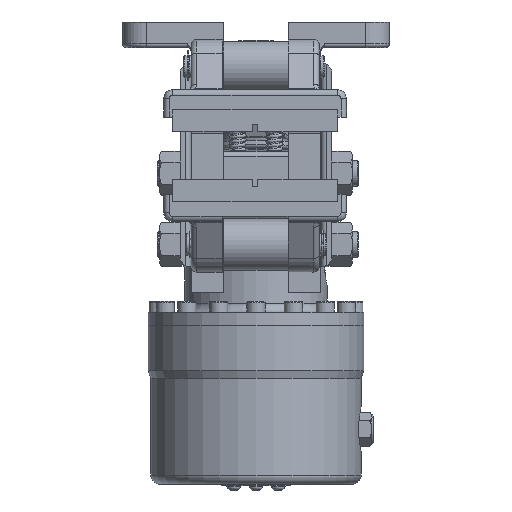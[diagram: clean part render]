
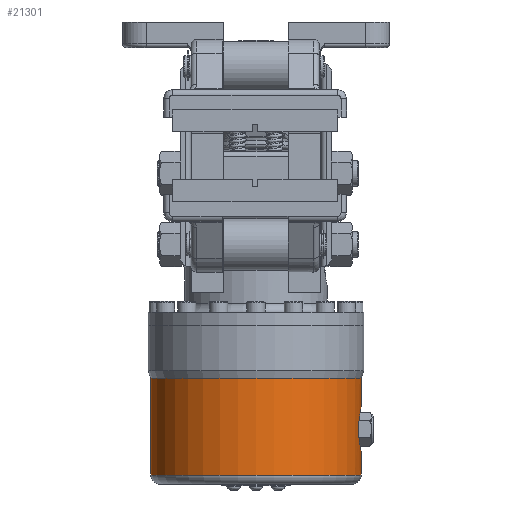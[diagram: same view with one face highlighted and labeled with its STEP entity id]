
A CAD part, front view. The second image highlights one B-rep face of the part: STEP entity #21301.
In plain terms, the highlighted cylindrical face has radius 57.5 mm (diameter 115 mm), a full revolution.
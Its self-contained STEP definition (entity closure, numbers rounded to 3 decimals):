
#570=FACE_BOUND('',#6298,.T.);
#2317=LINE('',#41375,#3629);
#3629=VECTOR('',#28796,57.5);
#4078=CYLINDRICAL_SURFACE('',#23432,57.5);
#5052=FACE_OUTER_BOUND('',#6297,.T.);
#6297=EDGE_LOOP('',(#18049,#18050,#18051,#18052,#18053,#18054,#18055));
#6298=EDGE_LOOP('',(#18056,#18057));
#6724=B_SPLINE_CURVE_WITH_KNOTS('',3,(#41379,#41380,#41381,#41382,#41383,
#41384,#41385,#41386,#41387,#41388,#41389,#41390,#41391,#41392,#41393,#41394,
#41395,#41396),.UNSPECIFIED.,.F.,.F.,(4,2,2,2,2,2,2,2,4),(1.89,
2.362,2.835,3.307,3.78,4.252,
4.725,5.197,5.67),.UNSPECIFIED.);
#6725=B_SPLINE_CURVE_WITH_KNOTS('',3,(#41397,#41398,#41399,#41400,#41401,
#41402,#41403,#41404,#41405,#41406,#41407,#41408,#41409,#41410,#41411,#41412,
#41413,#41414,#41415),.UNSPECIFIED.,.F.,.F.,(4,2,2,2,3,2,2,2,4),(5.67,
6.142,6.615,7.087,7.56,8.032,
8.505,8.977,9.45),.UNSPECIFIED.);
#7689=CIRCLE('',#23343,57.5);
#7690=CIRCLE('',#23344,57.5);
#7757=CIRCLE('',#23433,57.5);
#7758=CIRCLE('',#23434,57.5);
#7759=CIRCLE('',#23435,57.5);
#9575=VERTEX_POINT('',#41162);
#9576=VERTEX_POINT('',#41163);
#9645=VERTEX_POINT('',#41370);
#9646=VERTEX_POINT('',#41371);
#9647=VERTEX_POINT('',#41373);
#9648=VERTEX_POINT('',#41377);
#9649=VERTEX_POINT('',#41378);
#12448=EDGE_CURVE('',#9575,#9576,#7689,.T.);
#12449=EDGE_CURVE('',#9576,#9575,#7690,.T.);
#12530=EDGE_CURVE('',#9645,#9646,#7757,.T.);
#12531=EDGE_CURVE('',#9647,#9645,#7758,.T.);
#12532=EDGE_CURVE('',#9647,#9576,#2317,.T.);
#12533=EDGE_CURVE('',#9646,#9647,#7759,.T.);
#12534=EDGE_CURVE('',#9648,#9649,#6724,.T.);
#12535=EDGE_CURVE('',#9649,#9648,#6725,.T.);
#18049=ORIENTED_EDGE('',*,*,#12530,.F.);
#18050=ORIENTED_EDGE('',*,*,#12531,.F.);
#18051=ORIENTED_EDGE('',*,*,#12532,.T.);
#18052=ORIENTED_EDGE('',*,*,#12449,.T.);
#18053=ORIENTED_EDGE('',*,*,#12448,.T.);
#18054=ORIENTED_EDGE('',*,*,#12532,.F.);
#18055=ORIENTED_EDGE('',*,*,#12533,.F.);
#18056=ORIENTED_EDGE('',*,*,#12534,.T.);
#18057=ORIENTED_EDGE('',*,*,#12535,.T.);
#21301=ADVANCED_FACE('',(#5052,#570),#4078,.T.);
#23343=AXIS2_PLACEMENT_3D('',#41164,#28600,#28601);
#23344=AXIS2_PLACEMENT_3D('',#41165,#28602,#28603);
#23432=AXIS2_PLACEMENT_3D('',#41369,#28790,#28791);
#23433=AXIS2_PLACEMENT_3D('',#41372,#28792,#28793);
#23434=AXIS2_PLACEMENT_3D('',#41374,#28794,#28795);
#23435=AXIS2_PLACEMENT_3D('',#41376,#28797,#28798);
#28600=DIRECTION('center_axis',(0.,0.,
-1.));
#28601=DIRECTION('ref_axis',(1.,0.,0.));
#28602=DIRECTION('center_axis',(0.,0.,
-1.));
#28603=DIRECTION('ref_axis',(1.,0.,0.));
#28790=DIRECTION('center_axis',(0.,0.,
-1.));
#28791=DIRECTION('ref_axis',(1.,0.,0.));
#28792=DIRECTION('center_axis',(0.,0.,
-1.));
#28793=DIRECTION('ref_axis',(-1.,0.,0.));
#28794=DIRECTION('center_axis',(0.,0.,
-1.));
#28795=DIRECTION('ref_axis',(-1.,0.,0.));
#28796=DIRECTION('',(0.,0.,1.));
#28797=DIRECTION('center_axis',(0.,0.,
-1.));
#28798=DIRECTION('ref_axis',(-1.,0.,0.));
#41162=CARTESIAN_POINT('',(104.5,140.,-119.971));
#41163=CARTESIAN_POINT('',(-10.5,140.,-119.971));
#41164=CARTESIAN_POINT('Origin',(47.,140.,-119.971));
#41165=CARTESIAN_POINT('Origin',(47.,140.,-119.971));
#41369=CARTESIAN_POINT('Origin',(47.,140.,-148.911));
#41370=CARTESIAN_POINT('',(104.5,140.,-172.85));
#41371=CARTESIAN_POINT('',(47.,82.5,-172.85));
#41372=CARTESIAN_POINT('Origin',(47.,140.,-172.85));
#41373=CARTESIAN_POINT('',(-10.5,140.,-172.85));
#41374=CARTESIAN_POINT('Origin',(47.,140.,-172.85));
#41375=CARTESIAN_POINT('',(-10.5,140.,-148.911));
#41376=CARTESIAN_POINT('Origin',(47.,140.,-172.85));
#41377=CARTESIAN_POINT('',(104.5,140.,-135.35));
#41378=CARTESIAN_POINT('',(104.5,140.,-160.35));
#41379=CARTESIAN_POINT('Ctrl Pts',(104.5,140.,-135.35));
#41380=CARTESIAN_POINT('Ctrl Pts',(104.5,141.575,-135.35));
#41381=CARTESIAN_POINT('Ctrl Pts',(104.429,143.251,-135.666));
#41382=CARTESIAN_POINT('Ctrl Pts',(104.171,146.33,-136.943));
#41383=CARTESIAN_POINT('Ctrl Pts',(103.989,147.732,-137.904));
#41384=CARTESIAN_POINT('Ctrl Pts',(103.644,149.946,-140.118));
#41385=CARTESIAN_POINT('Ctrl Pts',(103.46,150.907,-141.52));
#41386=CARTESIAN_POINT('Ctrl Pts',(103.198,152.184,-144.599));
#41387=CARTESIAN_POINT('Ctrl Pts',(103.125,152.5,-146.275));
#41388=CARTESIAN_POINT('Ctrl Pts',(103.125,152.5,-149.425));
#41389=CARTESIAN_POINT('Ctrl Pts',(103.198,152.184,-151.101));
#41390=CARTESIAN_POINT('Ctrl Pts',(103.46,150.907,-154.18));
#41391=CARTESIAN_POINT('Ctrl Pts',(103.644,149.946,-155.582));
#41392=CARTESIAN_POINT('Ctrl Pts',(103.989,147.732,-157.796));
#41393=CARTESIAN_POINT('Ctrl Pts',(104.171,146.33,-158.757));
#41394=CARTESIAN_POINT('Ctrl Pts',(104.429,143.251,-160.034));
#41395=CARTESIAN_POINT('Ctrl Pts',(104.5,141.575,-160.35));
#41396=CARTESIAN_POINT('Ctrl Pts',(104.5,140.,-160.35));
#41397=CARTESIAN_POINT('Ctrl Pts',(104.5,140.,-160.35));
#41398=CARTESIAN_POINT('Ctrl Pts',(104.5,138.425,-160.35));
#41399=CARTESIAN_POINT('Ctrl Pts',(104.429,136.749,-160.034));
#41400=CARTESIAN_POINT('Ctrl Pts',(104.171,133.67,-158.757));
#41401=CARTESIAN_POINT('Ctrl Pts',(103.989,132.268,-157.796));
#41402=CARTESIAN_POINT('Ctrl Pts',(103.644,130.054,-155.582));
#41403=CARTESIAN_POINT('Ctrl Pts',(103.46,129.093,-154.18));
#41404=CARTESIAN_POINT('Ctrl Pts',(103.198,127.816,-151.101));
#41405=CARTESIAN_POINT('Ctrl Pts',(103.125,127.5,-149.425));
#41406=CARTESIAN_POINT('Ctrl Pts',(103.125,127.5,-147.85));
#41407=CARTESIAN_POINT('Ctrl Pts',(103.125,127.5,-146.275));
#41408=CARTESIAN_POINT('Ctrl Pts',(103.198,127.816,-144.599));
#41409=CARTESIAN_POINT('Ctrl Pts',(103.46,129.093,-141.52));
#41410=CARTESIAN_POINT('Ctrl Pts',(103.644,130.054,-140.118));
#41411=CARTESIAN_POINT('Ctrl Pts',(103.989,132.268,-137.904));
#41412=CARTESIAN_POINT('Ctrl Pts',(104.171,133.67,-136.943));
#41413=CARTESIAN_POINT('Ctrl Pts',(104.429,136.749,-135.666));
#41414=CARTESIAN_POINT('Ctrl Pts',(104.5,138.425,-135.35));
#41415=CARTESIAN_POINT('Ctrl Pts',(104.5,140.,-135.35));
